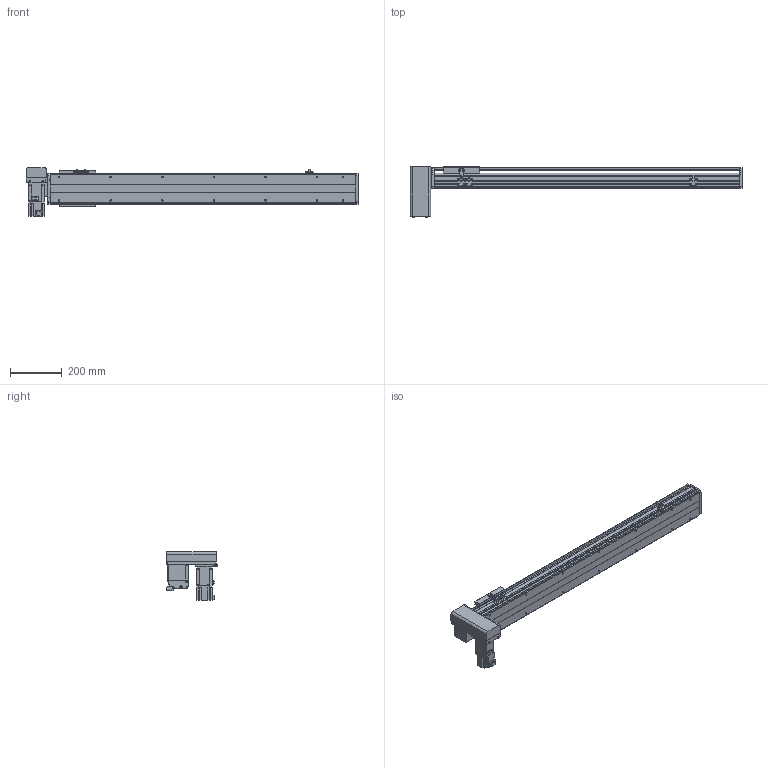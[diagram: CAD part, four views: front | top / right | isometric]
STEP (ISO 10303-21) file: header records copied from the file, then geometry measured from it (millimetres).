
FILE_DESCRIPTION( ( 'STEP AP214' ), '1' );
FILE_NAME( 'x:/temp/worker_27/temp/exporttempdir_6708_181_HopdL/format_0/PBS120-P40-S900-RD-T40-C1-N(0).stp', '2022-06-06T00:41:20', ( 'License CC BY-ND 4.0' ), ( 'CADENAS' ), ' ', 'PARTsolutions', ' ' );
FILE_SCHEMA( ( 'AUTOMOTIVE_DESIGN { 1 0 10303 214 1 1 1 1 }' ) );
Length unit declared in the file: millimetre
Products named in the file (7): PBS120-P40-S900-RD-T40-C1-N(0); _PBS120-S900()_body; _PBS120T-RD_motors; _T40-p1; _PBS120_sliser; _PBS120_plant; _PBS120_sensor
Assembly tree (8 placements, depth 2):
  PBS120-P40-S900-RD-T40-C1-N(0)
    _PBS120-S900()_body
    _PBS120T-RD_motors
    _T40-p1
    _PBS120_sliser
    _PBS120_plant
    _PBS120_sensor  x3
Bounding box: 1286 x 196 x 189.7 mm (x, y, z)
Volume: 5635695.3 mm3; surface area: 1092004.4 mm2
Topology: 8 solids, 8 shells, 822 faces, 2146 edges, 1381 vertices
Faces by surface type: plane 547, cylinder 227, cone 46, torus 2
Full cylindrical faces by diameter (mm): 2.459 x6, 3.242 x4, 4 x2, 4.134 x4, 4.5 x10, 4.917 x18, 5.5 x11, 6 x2, 6.6 x1, 7 x2, 8.5 x4, 9 x4, 12 x1, 14 x1, 30 x2, 40 x1, 50 x2
Entity records: 27156 total; most frequent: DIRECTION 3716, CARTESIAN_POINT 3659, ORIENTED_EDGE 3490, EDGE_CURVE 1745, AXIS2_PLACEMENT_3D 1244, LINE 1228, VECTOR 1228, VERTEX_POINT 1187
